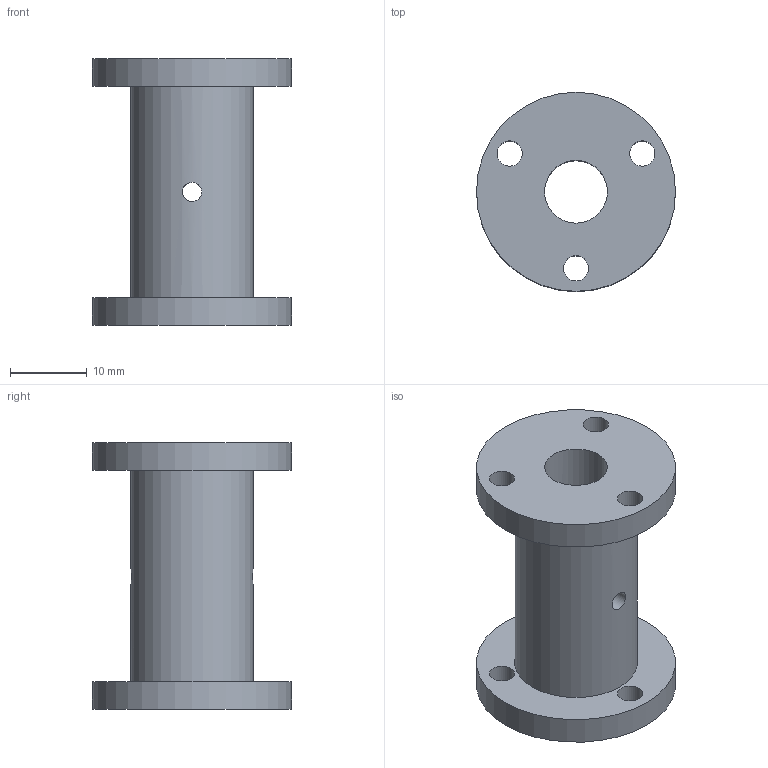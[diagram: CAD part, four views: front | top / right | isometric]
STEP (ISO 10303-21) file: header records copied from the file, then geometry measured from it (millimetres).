
FILE_DESCRIPTION(('Open CASCADE Model'),'2;1');
FILE_NAME('DH_core','2026-11-05T16:12:34',('Author'),('Open CASCADE'), 'Open CASCADE STEP processor 7.9','build123d','Unknown');
FILE_SCHEMA(('AUTOMOTIVE_DESIGN { 1 0 10303 214 1 1 1 1 }'));
Length unit declared in the file: millimetre
Products named in the file (2): DH_core
Assembly tree (1 placements, depth 2):
  DH_core
    DH_core
Bounding box: 26 x 26 x 34.8 mm (x, y, z)
Volume: 7310.9 mm3; surface area: 4651.4 mm2
Topology: 1 solids, 1 shells, 16 faces, 36 edges, 24 vertices
Faces by surface type: cylinder 12, plane 4
Full cylindrical faces by diameter (mm): 2.5 x2, 3.3 x6, 8.2 x1, 16 x1, 26 x2
Entity records: 1550 total; most frequent: CARTESIAN_POINT 708, DIRECTION 152, ORIENTED_EDGE 72, PCURVE 72, DEFINITIONAL_REPRESENTATION 72, LINE 56, VECTOR 56, CIRCLE 40
